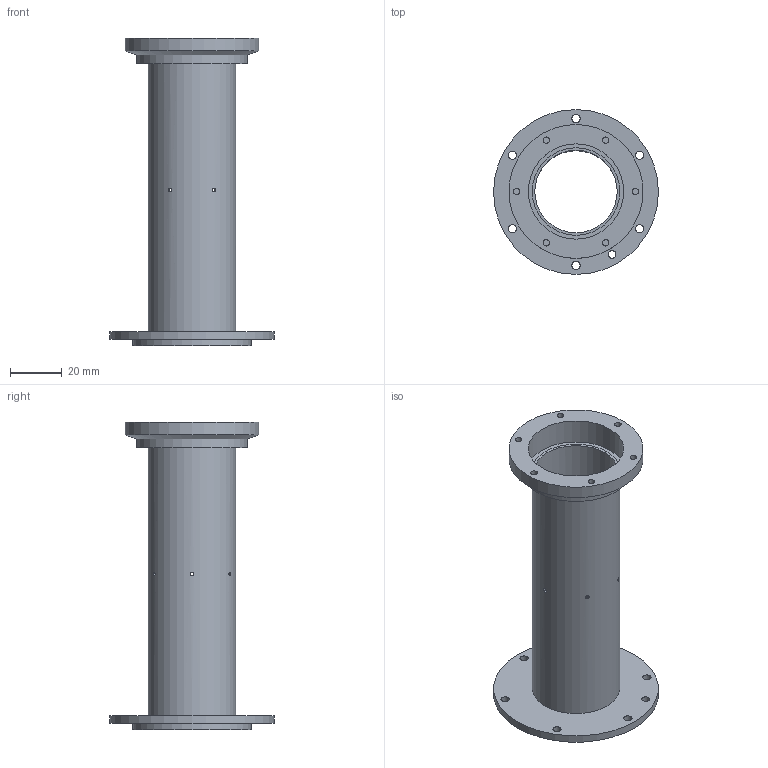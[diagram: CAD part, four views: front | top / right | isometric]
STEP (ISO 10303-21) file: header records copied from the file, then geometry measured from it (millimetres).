
FILE_DESCRIPTION(('Open CASCADE Model'),'2;1');
FILE_NAME('Open CASCADE Shape Model','2026-09-23T04:48:13',('Author'),( 'Open CASCADE'),'Open CASCADE STEP processor 7.9','Open CASCADE 7.9' ,'Unknown');
FILE_SCHEMA(('AUTOMOTIVE_DESIGN { 1 0 10303 214 1 1 1 1 }'));
Length unit declared in the file: millimetre
Products named in the file (1): Open CASCADE STEP translator 7.9 1
Bounding box: 64 x 64 x 119.5 mm (x, y, z)
Volume: 27436.8 mm3; surface area: 33167.2 mm2
Topology: 1 solids, 1 shells, 39 faces, 85 edges, 56 vertices
Faces by surface type: cylinder 26, plane 12, cone 1
Full cylindrical faces by diameter (mm): 1.5 x6, 2.5 x6, 3 x1, 3.2 x6, 32 x1, 34 x1, 37 x1, 43 x1, 45.9 x1, 52 x1, 64 x1
Entity records: 3490 total; most frequent: CARTESIAN_POINT 1743, DIRECTION 307, ORIENTED_EDGE 170, PCURVE 170, DEFINITIONAL_REPRESENTATION 170, LINE 129, VECTOR 129, EDGE_CURVE 85
